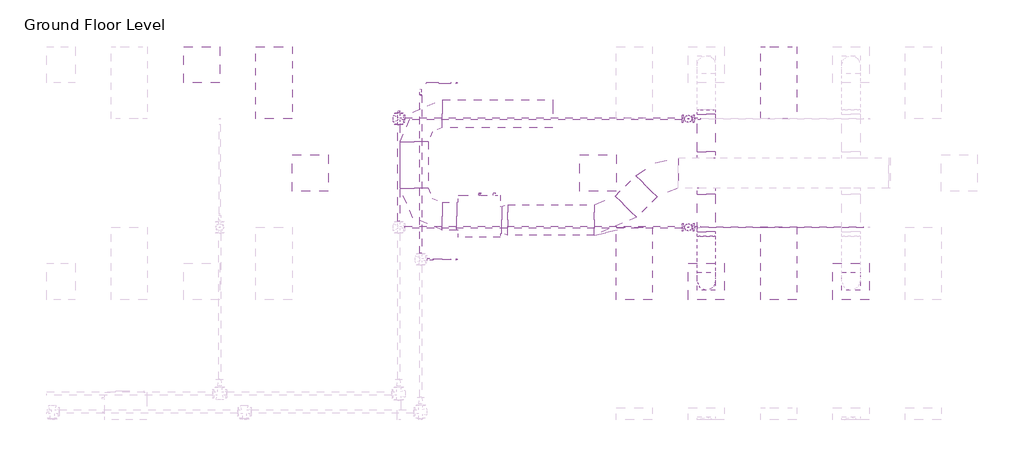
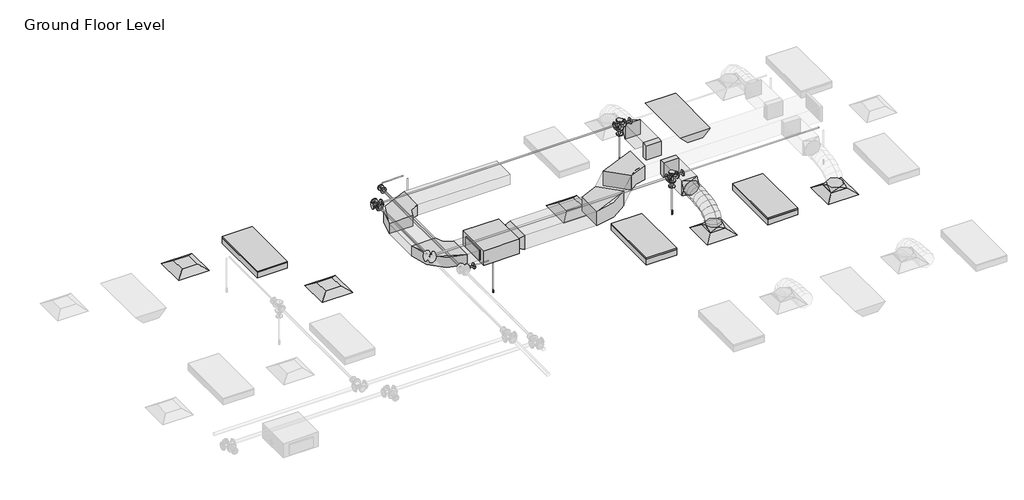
# One storey, part 64 of 66: 12 pipe segments, 11 duct fittings, 9 pipe fittings, 8 duct segments, 5 air terminals, 4 fire suppression terminals, 4 light fixtures, 1 proxy.
"""IFC4 building model written with IfcOpenShell, lengths in millimetres."""

from ifc_helpers import new_model, si_unit, point, frame, frame_2d, origin, place, context, project, spatial, polyline, circle_curve, ellipse_curve, trimmed, segment, composite_curve, outline, extrude, transform, mapped, element, save
from ifc_brep_helpers import plane_surface, cylinder_surface, advanced_brep
from components import m_return_diffuser_600_x_600_face_300_x_300_connection_ff221211, fcu_daikin_iu_bad131e0, m_rectangular_elbow_radius_1_w_54c96895, m_rectangular_elbow_radius_1_5_w_acc56c25, m_rectangular_takeoff_standard_cb0ccb98, m_rectangular_takeoff_standard_2be5eba1, m_rectangular_transition_angle_45_degree_2b595dfe, m_rectangular_to_round_transition_angle_45_degree_641efff0, m_sprinkler_dry_pendent_hosted_15_mm_dry_pendent_9bda8e11, m_sprinkler_pendent_15_mm_pendent_06fcbd8e, m_emergency_recessed_lighting_fixture_600x1200_277_5b10b25d, m_troffer_light_parabolic_rectangular1_0600x1200mm_4_lamp_86473d4a, m_reducer_flanged_cs_class_150_standard_ccf252ad, m_reducer_flanged_cs_class_150_standard_d42b2106, m_tee_round_base_flanged_cs_class_150_standard_7e5987a1

model = new_model("IFC4")

# Units and contexts
model_context = context("Model", 3, world=origin())
ifc_project = project(units=[si_unit("LENGTHUNIT", "METRE", prefix="MILLI")], contexts=[model_context])

# Site, building, storey
site = spatial("IfcSite", under=ifc_project)
building = spatial("IfcBuilding", under=site)
storey = spatial("IfcBuildingStorey", under=building, Name="Ground Floor Level", Elevation=900.0)

# Air terminals
placement = place(None, origin())
m_return_diffuser_600_x_600_face_300_x_300_connection_shape = m_return_diffuser_600_x_600_face_300_x_300_connection_ff221211(model_context)
element("IfcAirTerminal", 1, ObjectType="M_Return Diffuser : 600 x 600 Face 300 x 300 Connection", at=placement, inside=storey, context=model_context, shape_type="MappedRepresentation", body=[
    mapped(m_return_diffuser_600_x_600_face_300_x_300_connection_shape, transform((8942.7672395, 18735.2153534, 3650.0), x_axis=(1.0, 0.0, 0.0), y_axis=(0.0, 1.0, 0.0), z_axis=(0.0, 0.0, 1.0))),
])
element("IfcAirTerminal", 2, ObjectType="M_Return Diffuser : 600 x 600 Face 300 x 300 Connection", at=placement, inside=storey, context=model_context, shape_type="MappedRepresentation", body=[
    mapped(m_return_diffuser_600_x_600_face_300_x_300_connection_shape, transform((4162.7672395, 18735.2153534, 3650.0), x_axis=(1.0, 0.0, 0.0), y_axis=(0.0, 1.0, 0.0), z_axis=(0.0, 0.0, 1.0))),
])
element("IfcAirTerminal", 3, ObjectType="M_Supply Diffuser : 600 x 600 Face 300 x 300 Connection", at=placement, inside=storey, context=model_context, shape_type="MappedRepresentation", body=[
    mapped(m_return_diffuser_600_x_600_face_300_x_300_connection_shape, transform((10742.7672395, 16935.2153534, 3650.0), x_axis=(1.0, 0.0, 0.0), y_axis=(0.0, 1.0, 0.0), z_axis=(0.0, 0.0, 1.0))),
])
element("IfcAirTerminal", 4, ObjectType="M_Supply Diffuser : 600 x 600 Face 300 x 300 Connection", at=placement, inside=storey, context=model_context, shape_type="MappedRepresentation", body=[
    mapped(m_return_diffuser_600_x_600_face_300_x_300_connection_shape, transform((13142.7672395, 16935.2153534, 3650.0), x_axis=(1.0, 0.0, 0.0), y_axis=(0.0, 1.0, 0.0), z_axis=(0.0, 0.0, 1.0))),
])
element("IfcAirTerminal", 5, ObjectType="M_Supply Diffuser : 600 x 600 Face 300 x 300 Connection", at=placement, inside=storey, context=model_context, shape_type="MappedRepresentation", body=[
    mapped(m_return_diffuser_600_x_600_face_300_x_300_connection_shape, transform((2362.7672395, 20535.2153534, 3650.0), x_axis=(1.0, 0.0, 0.0), y_axis=(0.0, 1.0, 0.0), z_axis=(0.0, 0.0, 1.0))),
])

# Proxy
fcu_daikin_iu_shape = fcu_daikin_iu_bad131e0(model_context)
element("IfcBuildingElementProxy", 6, Name="FCU-DAIKIN IU : 4.5kW, 230V/50Hz/1Ph", ObjectType="FCU-DAIKIN IU : 4.5kW, 230V/50Hz/1Ph", at=placement, inside=storey, context=model_context, shape_type="MappedRepresentation", body=[
    mapped(fcu_daikin_iu_shape, transform((6968.8139492, 18019.6779527, 3934.0932729), x_axis=(0.0, 1.0, 0.0), y_axis=(-1.0, 0.0, 0.0), z_axis=(0.0, 0.0, 1.0))),
])

# Duct fittings
m_rectangular_elbow_radius_1_w_shape = m_rectangular_elbow_radius_1_w_54c96895(model_context)
element("IfcDuctFitting", 7, ObjectType="M_Rectangular Elbow - Radius : 1 W", at=placement, inside=storey, context=model_context, shape_type="MappedRepresentation", body=[
    mapped(m_rectangular_elbow_radius_1_w_shape, transform((5893.4139492, 18019.6779527, 4075.2932729), x_axis=(0.0, -1.0, 0.0), y_axis=(1.0, 0.0, 0.0), z_axis=(0.0, 0.0, 1.0))),
])
element("IfcDuctFitting", 8, ObjectType="M_Rectangular Elbow - Radius : 1 W", at=placement, inside=storey, context=model_context, shape_type="MappedRepresentation", body=[
    mapped(m_rectangular_elbow_radius_1_w_shape, transform((5893.4139492, 19719.6783949, 4075.2932729), x_axis=(-1.0, 0.0, 0.0), y_axis=(0.0, -1.0, 0.0), z_axis=(0.0, 0.0, 1.0))),
])
m_rectangular_elbow_radius_1_5_w_shape = m_rectangular_elbow_radius_1_5_w_acc56c25(model_context)
element("IfcDuctFitting", 9, ObjectType="M_Rectangular Elbow - Radius : 1.5 W", at=placement, inside=storey, context=model_context, shape_type="MappedRepresentation", body=[
    mapped(m_rectangular_elbow_radius_1_5_w_shape, transform((9187.6927358, 17956.1779527, 4100.0047224), x_axis=(0.9999999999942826, 0.0, -3.3815582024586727e-06), y_axis=(-9.063610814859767e-12, 0.9999999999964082, -2.680306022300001e-06), z_axis=(3.3815582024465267e-06, 2.6803060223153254e-06, 0.9999999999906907))),
])
element("IfcDuctFitting", 10, ObjectType="M_Rectangular Elbow - Radius : 1.5 W", at=placement, inside=storey, context=model_context, shape_type="MappedRepresentation", body=[
    mapped(m_rectangular_elbow_radius_1_5_w_shape, transform((9966.7301365, 18735.2153534, 4100.0), x_axis=(-1.0, 0.0, 0.0), y_axis=(0.0, -0.9999999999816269, 6.061864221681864e-06), z_axis=(0.0, 6.061864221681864e-06, 0.9999999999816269))),
])
m_rectangular_takeoff_standard_shape = m_rectangular_takeoff_standard_cb0ccb98(model_context)
element("IfcDuctFitting", 11, ObjectType="M_Rectangular Takeoff : Standard", at=placement, inside=storey, context=model_context, shape_type="MappedRepresentation", body=[
    mapped(m_rectangular_takeoff_standard_shape, transform((10742.7672395, 18985.2153534, 4100.0), x_axis=(0.0, 1.0, 0.0), y_axis=(1.0, 0.0, 0.0), z_axis=(0.0, 0.0, -1.0))),
])
m_rectangular_takeoff_standard_2_shape = m_rectangular_takeoff_standard_2be5eba1(model_context)
element("IfcDuctFitting", 12, ObjectType="M_Rectangular Takeoff : Standard", at=placement, inside=storey, context=model_context, shape_type="MappedRepresentation", body=[
    mapped(m_rectangular_takeoff_standard_2_shape, transform((10742.7672395, 18485.2153534, 4100.0), x_axis=(0.0, -1.0, 0.0), y_axis=(-1.0, 0.0, 0.0), z_axis=(0.0, 0.0, -1.0))),
])
m_rectangular_transition_angle_45_degree_shape = m_rectangular_transition_angle_45_degree_2b595dfe(model_context)
element("IfcDuctFitting", 13, ObjectType="M_Rectangular Transition - Angle : 45 Degree", at=placement, inside=storey, context=model_context, shape_type="MappedRepresentation", body=[
    mapped(m_rectangular_transition_angle_45_degree_shape, transform((7344.2139492, 17956.1779527, 4100.0057729), x_axis=(1.0, 0.0, 0.0), y_axis=(0.0, 1.0, 0.0), z_axis=(0.0, 0.0, 1.0))),
])
m_rectangular_to_round_transition_angle_45_degree_shape = m_rectangular_to_round_transition_angle_45_degree_641efff0(model_context)
element("IfcDuctFitting", 14, ObjectType="M_Rectangular to Round Transition - Angle : 45 Degree", at=placement, inside=storey, context=model_context, shape_type="MappedRepresentation", body=[
    mapped(m_rectangular_to_round_transition_angle_45_degree_shape, transform((10742.7672395, 16935.2153534, 3751.6), x_axis=(0.0, 0.0, 1.0), y_axis=(-1.0, 0.0, 0.0), z_axis=(0.0, -1.0, 0.0))),
])
element("IfcDuctFitting", 15, ObjectType="M_Rectangular to Round Transition - Angle : 45 Degree", at=placement, inside=storey, context=model_context, shape_type="MappedRepresentation", body=[
    mapped(m_rectangular_to_round_transition_angle_45_degree_shape, transform((10742.7672395, 17762.5512847, 4100.0), x_axis=(0.0, -1.0, 0.0), y_axis=(1.0, 0.0, 0.0), z_axis=(0.0, 0.0, 1.0))),
])
element("IfcDuctFitting", 16, ObjectType="M_Rectangular to Round Transition - Angle : 45 Degree", at=placement, inside=storey, context=model_context, shape_type="MappedRepresentation", body=[
    mapped(m_rectangular_to_round_transition_angle_45_degree_shape, transform((10742.7672395, 19707.8794221, 4100.0), x_axis=(0.0, 1.0, 0.0), y_axis=(-1.0, 0.0, 0.0), z_axis=(0.0, 0.0, 1.0))),
])
element("IfcDuctFitting", 17, ObjectType="M_Rectangular to Round Transition - Angle : 45 Degree", at=placement, inside=storey, context=model_context, shape_type="MappedRepresentation", body=[
    mapped(m_rectangular_to_round_transition_angle_45_degree_shape, transform((13142.7672395, 16935.2153534, 3751.6), x_axis=(0.0, 0.0, 1.0), y_axis=(-1.0, 0.0, 0.0), z_axis=(0.0, -1.0, 0.0))),
])

# Duct segments
element("IfcDuctSegment", 18, ObjectType="Flex - Round", at=placement, inside=storey, context=model_context, shape_type="AdvancedBrep", body=[
    advanced_brep(
    [(10892.7672395, 16935.2153534, 3826.6), (10742.7672395, 16785.2153534, 3826.6), (10592.7672395, 16935.2153534, 3826.6), (10742.7672395, 17085.2153534, 3826.6), (10892.7672395, 16935.2153534, 3857.9377114), (10742.7672395, 16785.2153534, 3883.5809337), (10592.7672395, 16935.2153534, 3857.9377114), (10742.7672395, 17085.2153534, 3832.2944892), (10892.7672395, 16952.2312859, 3906.2505728), (10742.7672395, 16818.493307, 3978.0660967), (10592.7672395, 16952.2312859, 3906.2505728), (10742.7672395, 17085.9692649, 3834.435049), (10892.7672395, 16999.4151663, 3968.7113131), (10742.7672395, 16895.209267, 4079.6206026), (10592.7672395, 16999.4151663, 3968.7113131), (10742.7672395, 17103.6210655, 3857.8020236), (10892.7672395, 17070.9711184, 4016.0700639), (10742.7672395, 17002.0370628, 4150.3237489), (10592.7672395, 17070.9711184, 4016.0700639), (10742.7672395, 17139.9051741, 3881.8163788), (10892.7672395, 17161.1032664, 4050.4146682), (10742.7672395, 17117.5425033, 4194.3367758), (10592.7672395, 17161.1032664, 4050.4146682), (10742.7672395, 17204.6640296, 3906.4925606), (10892.7672395, 17264.0157343, 4073.8329691), (10742.7672395, 17237.4548103, 4221.6234841), (10592.7672395, 17264.0157343, 4073.8329691), (10742.7672395, 17290.5766583, 3926.0424542), (10892.7672395, 17373.912646, 4088.4128097), (10742.7672395, 17358.7617437, 4237.7170733), (10592.7672395, 17373.912646, 4088.4128097), (10742.7672395, 17389.0635483, 3939.1085462), (10892.7672395, 17484.9981256, 4096.242033), (10742.7672395, 17477.4927975, 4246.085151), (10592.7672395, 17484.9981256, 4096.242033), (10742.7672395, 17492.5034538, 3946.398915), (10892.7672395, 17591.4762972, 4099.4084821), (10742.7672395, 17588.7848041, 4249.394754), (10592.7672395, 17591.4762972, 4099.4084821), (10742.7672395, 17594.1677903, 3949.4222102), (10892.7672395, 17687.5512847, 4100.0), (10742.7672395, 17688.4747925, 3950.0028429), (10592.7672395, 17687.5512847, 4100.0), (10742.7672395, 17686.6277768, 4249.9971571)],
    [
        (0, 1, circle_curve(frame((10742.7672395, 16935.2153534, 3826.6), z_axis=(0.0, 0.0, -1.0), x_axis=(1.0, 0.0, 0.0)), 150.0)),
        (1, 2, circle_curve(frame((10742.7672395, 16935.2153534, 3826.6), z_axis=(0.0, 0.0, -1.0), x_axis=(1.0, 0.0, 0.0)), 150.0)),
        (2, 3, circle_curve(frame((10742.7672395, 16935.2153534, 3826.6), z_axis=(0.0, 0.0, -1.0), x_axis=(1.0, 0.0, 0.0)), 150.0)),
        (3, 0, circle_curve(frame((10742.7672395, 16935.2153534, 3826.6), z_axis=(0.0, 0.0, -1.0), x_axis=(1.0, 0.0, 0.0)), 150.0)),
        (0, 4),
        (4, 5, ellipse_curve(frame((10742.7672395, 16935.2153534, 3857.9377114), z_axis=(0.0, -0.16851014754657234, -0.9856999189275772), x_axis=(0.0, 0.9856999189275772, -0.1685101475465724)), 152.176131, 150.0)),
        (5, 1),
        (5, 6, ellipse_curve(frame((10742.7672395, 16935.2153534, 3857.9377114), z_axis=(0.0, -0.16851014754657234, -0.9856999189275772), x_axis=(0.0, 0.9856999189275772, -0.1685101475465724)), 152.176131, 150.0)),
        (6, 2),
        (6, 7, ellipse_curve(frame((10742.7672395, 16935.2153534, 3857.9377114), z_axis=(0.0, -0.16851014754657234, -0.9856999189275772), x_axis=(0.0, 0.9856999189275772, -0.1685101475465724)), 152.176131, 150.0)),
        (7, 3),
        (7, 4, ellipse_curve(frame((10742.7672395, 16935.2153534, 3857.9377114), z_axis=(0.0, -0.16851014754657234, -0.9856999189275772), x_axis=(0.0, 0.9856999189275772, -0.1685101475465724)), 152.176131, 150.0)),
        (4, 8),
        (8, 9, ellipse_curve(frame((10742.7672395, 16952.2312859, 3906.2505728), z_axis=(0.0, -0.47309225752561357, -0.8810128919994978), x_axis=(0.0, 0.8810128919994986, -0.47309225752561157)), 151.8002519, 150.0)),
        (9, 5),
        (9, 10, ellipse_curve(frame((10742.7672395, 16952.2312859, 3906.2505728), z_axis=(0.0, -0.47309225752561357, -0.8810128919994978), x_axis=(0.0, 0.8810128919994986, -0.47309225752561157)), 151.8002519, 150.0)),
        (10, 6),
        (10, 11, ellipse_curve(frame((10742.7672395, 16952.2312859, 3906.2505728), z_axis=(0.0, -0.47309225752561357, -0.8810128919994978), x_axis=(0.0, 0.8810128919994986, -0.47309225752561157)), 151.8002519, 150.0)),
        (11, 7),
        (11, 8, ellipse_curve(frame((10742.7672395, 16952.2312859, 3906.2505728), z_axis=(0.0, -0.47309225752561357, -0.8810128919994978), x_axis=(0.0, 0.8810128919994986, -0.47309225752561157)), 151.8002519, 150.0)),
        (8, 12),
        (12, 13, ellipse_curve(frame((10742.7672395, 16999.4151663, 3968.7113131), z_axis=(0.0, -0.7287877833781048, -0.6847396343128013), x_axis=(0.0, 0.6847396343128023, -0.7287877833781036)), 152.1832446, 150.0)),
        (13, 9),
        (13, 14, ellipse_curve(frame((10742.7672395, 16999.4151663, 3968.7113131), z_axis=(0.0, -0.7287877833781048, -0.6847396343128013), x_axis=(0.0, 0.6847396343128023, -0.7287877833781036)), 152.1832446, 150.0)),
        (14, 10),
        (14, 15, ellipse_curve(frame((10742.7672395, 16999.4151663, 3968.7113131), z_axis=(0.0, -0.7287877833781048, -0.6847396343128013), x_axis=(0.0, 0.6847396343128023, -0.7287877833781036)), 152.1832446, 150.0)),
        (15, 11),
        (15, 12, ellipse_curve(frame((10742.7672395, 16999.4151663, 3968.7113131), z_axis=(0.0, -0.7287877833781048, -0.6847396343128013), x_axis=(0.0, 0.6847396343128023, -0.7287877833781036)), 152.1832446, 150.0)),
        (12, 16),
        (16, 17, ellipse_curve(frame((10742.7672395, 17070.9711184, 4016.0700639), z_axis=(0.0, -0.8895859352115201, -0.45676784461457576), x_axis=(0.0, 0.45676784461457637, -0.8895859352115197)), 150.91705, 150.0)),
        (17, 13),
        (17, 18, ellipse_curve(frame((10742.7672395, 17070.9711184, 4016.0700639), z_axis=(0.0, -0.8895859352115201, -0.45676784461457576), x_axis=(0.0, 0.45676784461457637, -0.8895859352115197)), 150.91705, 150.0)),
        (18, 14),
        (18, 19, ellipse_curve(frame((10742.7672395, 17070.9711184, 4016.0700639), z_axis=(0.0, -0.8895859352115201, -0.45676784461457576), x_axis=(0.0, 0.45676784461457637, -0.8895859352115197)), 150.91705, 150.0)),
        (19, 15),
        (19, 16, ellipse_curve(frame((10742.7672395, 17070.9711184, 4016.0700639), z_axis=(0.0, -0.8895859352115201, -0.45676784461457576), x_axis=(0.0, 0.45676784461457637, -0.8895859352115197)), 150.91705, 150.0)),
        (16, 20),
        (20, 21, ellipse_curve(frame((10742.7672395, 17161.1032664, 4050.4146682), z_axis=(0.0, -0.9571203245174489, -0.2896906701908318), x_axis=(0.0, 0.28969067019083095, -0.9571203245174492)), 150.369921, 150.0)),
        (21, 17),
        (21, 22, ellipse_curve(frame((10742.7672395, 17161.1032664, 4050.4146682), z_axis=(0.0, -0.9571203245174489, -0.2896906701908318), x_axis=(0.0, 0.28969067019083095, -0.9571203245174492)), 150.369921, 150.0)),
        (22, 18),
        (22, 23, ellipse_curve(frame((10742.7672395, 17161.1032664, 4050.4146682), z_axis=(0.0, -0.9571203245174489, -0.2896906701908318), x_axis=(0.0, 0.28969067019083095, -0.9571203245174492)), 150.369921, 150.0)),
        (23, 19),
        (23, 20, ellipse_curve(frame((10742.7672395, 17161.1032664, 4050.4146682), z_axis=(0.0, -0.9571203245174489, -0.2896906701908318), x_axis=(0.0, 0.28969067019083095, -0.9571203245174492)), 150.369921, 150.0)),
        (20, 24),
        (24, 25, ellipse_curve(frame((10742.7672395, 17264.0157343, 4073.8329691), z_axis=(0.0, -0.9842313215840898, -0.17688613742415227), x_axis=(0.0, 0.17688613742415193, -0.9842313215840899)), 150.1583131, 150.0)),
        (25, 21),
        (25, 26, ellipse_curve(frame((10742.7672395, 17264.0157343, 4073.8329691), z_axis=(0.0, -0.9842313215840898, -0.17688613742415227), x_axis=(0.0, 0.17688613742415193, -0.9842313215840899)), 150.1583131, 150.0)),
        (26, 22),
        (26, 27, ellipse_curve(frame((10742.7672395, 17264.0157343, 4073.8329691), z_axis=(0.0, -0.9842313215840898, -0.17688613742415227), x_axis=(0.0, 0.17688613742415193, -0.9842313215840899)), 150.1583131, 150.0)),
        (27, 23),
        (27, 24, ellipse_curve(frame((10742.7672395, 17264.0157343, 4073.8329691), z_axis=(0.0, -0.9842313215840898, -0.17688613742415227), x_axis=(0.0, 0.17688613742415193, -0.9842313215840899)), 150.1583131, 150.0)),
        (24, 28),
        (28, 29, ellipse_curve(frame((10742.7672395, 17373.912646, 4088.4128097), z_axis=(0.0, -0.9948906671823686, -0.1009582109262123), x_axis=(0.0, 0.10095821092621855, -0.994890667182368)), 150.0710264, 150.0)),
        (29, 25),
        (29, 30, ellipse_curve(frame((10742.7672395, 17373.912646, 4088.4128097), z_axis=(0.0, -0.9948906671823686, -0.1009582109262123), x_axis=(0.0, 0.10095821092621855, -0.994890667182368)), 150.0710264, 150.0)),
        (30, 26),
        (30, 31, ellipse_curve(frame((10742.7672395, 17373.912646, 4088.4128097), z_axis=(0.0, -0.9948906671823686, -0.1009582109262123), x_axis=(0.0, 0.10095821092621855, -0.994890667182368)), 150.0710264, 150.0)),
        (31, 27),
        (31, 28, ellipse_curve(frame((10742.7672395, 17373.912646, 4088.4128097), z_axis=(0.0, -0.9948906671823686, -0.1009582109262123), x_axis=(0.0, 0.10095821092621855, -0.994890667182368)), 150.0710264, 150.0)),
        (28, 32),
        (32, 33, ellipse_curve(frame((10742.7672395, 17484.9981256, 4096.242033), z_axis=(0.0, -0.9987479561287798, -0.05002519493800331), x_axis=(0.0, 0.05002519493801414, -0.9987479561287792)), 150.0309634, 150.0)),
        (33, 29),
        (33, 34, ellipse_curve(frame((10742.7672395, 17484.9981256, 4096.242033), z_axis=(0.0, -0.9987479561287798, -0.05002519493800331), x_axis=(0.0, 0.05002519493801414, -0.9987479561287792)), 150.0309634, 150.0)),
        (34, 30),
        (34, 35, ellipse_curve(frame((10742.7672395, 17484.9981256, 4096.242033), z_axis=(0.0, -0.9987479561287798, -0.05002519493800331), x_axis=(0.0, 0.05002519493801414, -0.9987479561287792)), 150.0309634, 150.0)),
        (35, 31),
        (35, 32, ellipse_curve(frame((10742.7672395, 17484.9981256, 4096.242033), z_axis=(0.0, -0.9987479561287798, -0.05002519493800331), x_axis=(0.0, 0.05002519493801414, -0.9987479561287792)), 150.0309634, 150.0)),
        (32, 36),
        (36, 37, ellipse_curve(frame((10742.7672395, 17591.4762972, 4099.4084821), z_axis=(0.0, -0.9998390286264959, -0.017942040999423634), x_axis=(0.0, 0.017942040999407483, -0.9998390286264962)), 150.0104193, 150.0)),
        (37, 33),
        (37, 38, ellipse_curve(frame((10742.7672395, 17591.4762972, 4099.4084821), z_axis=(0.0, -0.9998390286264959, -0.017942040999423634), x_axis=(0.0, 0.017942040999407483, -0.9998390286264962)), 150.0104193, 150.0)),
        (38, 34),
        (38, 39, ellipse_curve(frame((10742.7672395, 17591.4762972, 4099.4084821), z_axis=(0.0, -0.9998390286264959, -0.017942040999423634), x_axis=(0.0, 0.017942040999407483, -0.9998390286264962)), 150.0104193, 150.0)),
        (39, 35),
        (39, 36, ellipse_curve(frame((10742.7672395, 17591.4762972, 4099.4084821), z_axis=(0.0, -0.9998390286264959, -0.017942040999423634), x_axis=(0.0, 0.017942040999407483, -0.9998390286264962)), 150.0104193, 150.0)),
        (40, 41, circle_curve(frame((10742.7672395, 17687.5512847, 4100.0), z_axis=(0.0, 0.9999810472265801, 0.006156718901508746), x_axis=(1.0, 0.0, 0.0)), 150.0)),
        (41, 42, circle_curve(frame((10742.7672395, 17687.5512847, 4100.0), z_axis=(0.0, 0.9999810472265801, 0.006156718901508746), x_axis=(1.0, 0.0, 0.0)), 150.0)),
        (42, 43, circle_curve(frame((10742.7672395, 17687.5512847, 4100.0), z_axis=(0.0, 0.9999810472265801, 0.006156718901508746), x_axis=(1.0, 0.0, 0.0)), 150.0)),
        (43, 40, circle_curve(frame((10742.7672395, 17687.5512847, 4100.0), z_axis=(0.0, 0.9999810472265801, 0.006156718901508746), x_axis=(1.0, 0.0, 0.0)), 150.0)),
        (36, 40),
        (43, 37),
        (42, 38),
        (41, 39),
    ],
    [
        plane_surface(frame((10742.7672395, 16785.2153534, 3826.6), z_axis=(0.0, 0.0, -1.0), x_axis=(1.0, 0.0, 0.0))),
        cylinder_surface(frame((10742.7672395, 16935.2153534, 3826.6), z_axis=(0.0, 0.0, -1.0), x_axis=(1.0, 0.0, 0.0)), 150.0),
        cylinder_surface(frame((10742.7672395, 16935.2153534, 3857.9377114), z_axis=(0.0, -0.3322008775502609, -0.9432086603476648), x_axis=(1.0, 0.0, 0.0)), 150.0),
        cylinder_surface(frame((10742.7672395, 16952.2312859, 3906.2505728), z_axis=(0.0, -0.6027625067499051, -0.7979206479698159), x_axis=(1.0, 0.0, 0.0)), 150.0),
        cylinder_surface(frame((10742.7672395, 16999.4151663, 3968.7113131), z_axis=(0.0, -0.833902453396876, -0.5519118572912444), x_axis=(1.0, 0.0, 0.0)), 150.0),
        cylinder_surface(frame((10742.7672395, 17070.9711184, 4016.0700639), z_axis=(0.0, -0.9344582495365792, -0.35607271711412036), x_axis=(1.0, 0.0, 0.0)), 150.0),
        cylinder_surface(frame((10742.7672395, 17161.1032664, 4050.4146682), z_axis=(0.0, -0.9750732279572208, -0.22188330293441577), x_axis=(1.0, 0.0, 0.0)), 150.0),
        cylinder_surface(frame((10742.7672395, 17264.0157343, 4073.8329691), z_axis=(0.0, -0.9913140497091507, -0.13151598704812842), x_axis=(1.0, 0.0, 0.0)), 150.0),
        cylinder_surface(frame((10742.7672395, 17373.912646, 4088.4128097), z_axis=(0.0, -0.9975255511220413, -0.07030487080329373), x_axis=(1.0, 0.0, 0.0)), 150.0),
        cylinder_surface(frame((10742.7672395, 17484.9981256, 4096.242033), z_axis=(0.0, -0.9995581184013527, -0.02972487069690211), x_axis=(1.0, 0.0, 0.0)), 150.0),
        plane_surface(frame((10742.7672395, 17686.6277768, 4249.9971571), z_axis=(0.0, 0.9999810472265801, 0.0061567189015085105), x_axis=(1.0, 0.0, 0.0))),
        cylinder_surface(frame((10742.7672395, 17591.4762972, 4099.4084821), z_axis=(0.0, -0.9999810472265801, -0.006156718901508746), x_axis=(1.0, 0.0, 0.0)), 150.0),
    ],
    [
        (0, [[1, 2, 3, 4]]),
        (1, [[-1, 5, 6, 7]]),
        (1, [[-2, -7, 8, 9]]),
        (1, [[-3, -9, 10, 11]]),
        (1, [[-4, -11, 12, -5]]),
        (2, [[-6, 13, 14, 15]]),
        (2, [[-8, -15, 16, 17]]),
        (2, [[-10, -17, 18, 19]]),
        (2, [[-12, -19, 20, -13]]),
        (3, [[-14, 21, 22, 23]]),
        (3, [[-16, -23, 24, 25]]),
        (3, [[-18, -25, 26, 27]]),
        (3, [[-20, -27, 28, -21]]),
        (4, [[-22, 29, 30, 31]]),
        (4, [[-24, -31, 32, 33]]),
        (4, [[-26, -33, 34, 35]]),
        (4, [[-28, -35, 36, -29]]),
        (5, [[-30, 37, 38, 39]]),
        (5, [[-32, -39, 40, 41]]),
        (5, [[-34, -41, 42, 43]]),
        (5, [[-36, -43, 44, -37]]),
        (6, [[-38, 45, 46, 47]]),
        (6, [[-40, -47, 48, 49]]),
        (6, [[-42, -49, 50, 51]]),
        (6, [[-44, -51, 52, -45]]),
        (7, [[-46, 53, 54, 55]]),
        (7, [[-48, -55, 56, 57]]),
        (7, [[-50, -57, 58, 59]]),
        (7, [[-52, -59, 60, -53]]),
        (8, [[-54, 61, 62, 63]]),
        (8, [[-56, -63, 64, 65]]),
        (8, [[-58, -65, 66, 67]]),
        (8, [[-60, -67, 68, -61]]),
        (9, [[-62, 69, 70, 71]]),
        (9, [[-64, -71, 72, 73]]),
        (9, [[-66, -73, 74, 75]]),
        (9, [[-68, -75, 76, -69]]),
        (10, [[77, 78, 79, 80]]),
        (11, [[-70, 81, -80, 82]]),
        (11, [[-72, -82, -79, 83]]),
        (11, [[-74, -83, -78, 84]]),
        (11, [[-76, -84, -77, -81]]),
    ],
),
])
element("IfcDuctSegment", 19, ObjectType="Radius Elbows / Taps", at=placement, inside=storey, context=model_context, shape_type="SweptSolid", body=[
    extrude(outline(polyline([(7447.693178, 17706.1779527), (7447.693178, 18206.1779527), (8877.032564, 18206.1779527), (8877.032564, 17706.1779527), (7447.693178, 17706.1779527)])), frame((0.0, 0.0, 3950.0057729), z_axis=(0.0, 0.0, 1.0), x_axis=(1.0, 0.0, 0.0)), (0.0, 0.0, 1.0), 300.0),
])
element("IfcDuctSegment", 20, ObjectType="Radius Elbows / Taps", at=placement, inside=storey, context=model_context, shape_type="SweptSolid", body=[
    extrude(outline(polyline([(9584.1393452, 17999.0711715), (9230.5859546, 18352.6245621), (9570.2835271, 18692.3221346), (9923.8369177, 18338.768744), (9584.1393452, 17999.0711715)])), frame((0.0, 0.0, 3950.0033908), z_axis=(0.0, 0.0, 1.0), x_axis=(1.0, 0.0, 0.0)), (0.0, 0.0, 1.0), 300.0),
])
element("IfcDuctSegment", 21, ObjectType="Radius Elbows / Taps", at=placement, inside=storey, context=model_context, shape_type="SweptSolid", body=[
    extrude(outline(polyline([(6593.4139492, 18250.6154527), (6593.4139492, 17788.7404527), (6355.2889492, 17788.7404527), (6355.2889492, 18250.6154527), (6593.4139492, 18250.6154527)])), frame((0.0, 0.0, 3968.1432729), z_axis=(0.0, 0.0, 1.0), x_axis=(1.0, 0.0, 0.0)), (0.0, 0.0, 1.0), 214.3),
])
element("IfcDuctSegment", 22, ObjectType="Radius Elbows / Taps", at=placement, inside=storey, context=model_context, shape_type="SweptSolid", body=[
    extrude(outline(polyline([(6124.3514492, 18481.5529527), (5662.4764492, 18481.5529527), (5662.4764492, 19257.8033949), (6124.3514492, 19257.8033949), (6124.3514492, 18481.5529527)])), frame((0.0, 0.0, 3968.1432729), z_axis=(0.0, 0.0, 1.0), x_axis=(1.0, 0.0, 0.0)), (0.0, 0.0, 1.0), 214.3),
])
element("IfcDuctSegment", 23, ObjectType="Radius Elbows / Taps", at=placement, inside=storey, context=model_context, shape_type="SweptSolid", body=[
    extrude(outline(polyline([(6355.2889492, 19488.7408949), (6355.2889492, 19950.6158949), (8193.4139492, 19950.6158949), (8193.4139492, 19488.7408949), (6355.2889492, 19488.7408949)])), frame((0.0, 0.0, 3968.1432729), z_axis=(0.0, 0.0, 1.0), x_axis=(1.0, 0.0, 0.0)), (0.0, 0.0, 1.0), 214.3),
])
element("IfcDuctSegment", 24, ObjectType="Radius Elbows / Taps", at=placement, inside=storey, context=model_context, shape_type="SweptSolid", body=[
    extrude(outline(polyline([(10892.7672395, 19086.8153534), (10592.7672395, 19086.8153534), (10592.7672395, 19707.8794221), (10892.7672395, 19707.8794221), (10892.7672395, 19086.8153534)])), frame((0.0, 0.0, 3950.0), z_axis=(0.0, 0.0, 1.0), x_axis=(1.0, 0.0, 0.0)), (0.0, 0.0, 1.0), 300.0),
])
element("IfcDuctSegment", 25, ObjectType="Radius Elbows / Taps", at=placement, inside=storey, context=model_context, shape_type="SweptSolid", body=[
    extrude(outline(polyline([(10592.7672395, 18383.6153534), (10892.7672395, 18383.6153534), (10892.7672395, 17762.5512847), (10592.7672395, 17762.5512847), (10592.7672395, 18383.6153534)])), frame((0.0, 0.0, 3950.0), z_axis=(0.0, 0.0, 1.0), x_axis=(1.0, 0.0, 0.0)), (0.0, 0.0, 1.0), 300.0),
])

# Fire suppression terminals
m_sprinkler_dry_pendent_hosted_15_mm_dry_pendent_shape = m_sprinkler_dry_pendent_hosted_15_mm_dry_pendent_9bda8e11(model_context)
element("IfcFireSuppressionTerminal", 26, ObjectType="M_Sprinkler - Dry - Pendent - Hosted : 15 mm Dry Pendent", at=placement, inside=storey, context=model_context, shape_type="MappedRepresentation", body=[
    mapped(m_sprinkler_dry_pendent_hosted_15_mm_dry_pendent_shape, transform((10442.7672395, 19635.2153534, 3650.0), x_axis=(1.0, 0.0, 0.0), y_axis=(0.0, -1.0, 0.0), z_axis=(0.0, 0.0, -1.0))),
])
element("IfcFireSuppressionTerminal", 27, ObjectType="M_Sprinkler - Dry - Pendent - Hosted : 15 mm Dry Pendent", at=placement, inside=storey, context=model_context, shape_type="MappedRepresentation", body=[
    mapped(m_sprinkler_dry_pendent_hosted_15_mm_dry_pendent_shape, transform((10442.7672395, 17835.2153534, 3650.0), x_axis=(1.0, 0.0, 0.0), y_axis=(0.0, -1.0, 0.0), z_axis=(0.0, 0.0, -1.0))),
])
m_sprinkler_pendent_15_mm_pendent_shape = m_sprinkler_pendent_15_mm_pendent_06fcbd8e(model_context)
element("IfcFireSuppressionTerminal", 28, ObjectType="M_Sprinkler - Pendent : 15 mm Pendent", at=placement, inside=storey, context=model_context, shape_type="MappedRepresentation", body=[
    mapped(m_sprinkler_pendent_15_mm_pendent_shape, transform((6592.5481019, 17301.8585069, 3650.0), x_axis=(1.0, 0.0, 0.0), y_axis=(0.0, 1.0, 0.0), z_axis=(0.0, 0.0, 1.0))),
])
element("IfcFireSuppressionTerminal", 29, ObjectType="M_Sprinkler - Pendent : 15 mm Pendent", at=placement, inside=storey, context=model_context, shape_type="MappedRepresentation", body=[
    mapped(m_sprinkler_pendent_15_mm_pendent_shape, transform((6592.5481019, 20231.639515, 3650.0), x_axis=(1.0, 0.0, 0.0), y_axis=(0.0, 1.0, 0.0), z_axis=(0.0, 0.0, 1.0))),
])

# Light fixtures
m_emergency_recessed_lighting_fixture_600x1200_277_shape = m_emergency_recessed_lighting_fixture_600x1200_277_5b10b25d(model_context)
element("IfcLightFixture", 30, ObjectType="M_Emergency Recessed Lighting Fixture : 600x1200 - 277", at=placement, inside=storey, context=model_context, shape_type="MappedRepresentation", body=[
    mapped(m_emergency_recessed_lighting_fixture_600x1200_277_shape, transform((11642.7672395, 19635.2153534, 3650.0), x_axis=(0.0, 1.0, 0.0), y_axis=(-1.0, 0.0, 0.0), z_axis=(0.0, 0.0, 1.0))),
])
m_troffer_light_parabolic_rectangular1_0600x1200mm_4_lamp_shape = m_troffer_light_parabolic_rectangular1_0600x1200mm_4_lamp_86473d4a(model_context)
element("IfcLightFixture", 31, ObjectType="M_Troffer Light - Parabolic Rectangular1 : 0600x1200mm(4 Lamp) - 277V 2", at=placement, inside=storey, context=model_context, shape_type="MappedRepresentation", body=[
    mapped(m_troffer_light_parabolic_rectangular1_0600x1200mm_4_lamp_shape, transform((3503.3013074, 20253.918855, 3650.0), x_axis=(0.0, 1.0, 0.0), y_axis=(-1.0, 0.0, 0.0), z_axis=(0.0, 0.0, 1.0))),
])
element("IfcLightFixture", 32, ObjectType="M_Troffer Light - Parabolic Rectangular1 : 0600x1200mm(4 Lamp) - 277V 2", at=placement, inside=storey, context=model_context, shape_type="MappedRepresentation", body=[
    mapped(m_troffer_light_parabolic_rectangular1_0600x1200mm_4_lamp_shape, transform((9483.3013074, 17253.918855, 3650.0), x_axis=(0.0, 1.0, 0.0), y_axis=(-1.0, 0.0, 0.0), z_axis=(0.0, 0.0, 1.0))),
])
element("IfcLightFixture", 33, ObjectType="M_Troffer Light - Parabolic Rectangular1 : 0600x1200mm(4 Lamp) - 277V 2", at=placement, inside=storey, context=model_context, shape_type="MappedRepresentation", body=[
    mapped(m_troffer_light_parabolic_rectangular1_0600x1200mm_4_lamp_shape, transform((11883.3013074, 17253.918855, 3650.0), x_axis=(0.0, 1.0, 0.0), y_axis=(-1.0, 0.0, 0.0), z_axis=(0.0, 0.0, 1.0))),
])

# Pipe fittings
m_reducer_flanged_cs_class_150_standard_shape = m_reducer_flanged_cs_class_150_standard_ccf252ad(model_context)
element("IfcPipeFitting", 34, ObjectType="M_Reducer - Flanged - CS - Class 150 : Standard", at=placement, inside=storey, context=model_context, shape_type="MappedRepresentation", body=[
    mapped(m_reducer_flanged_cs_class_150_standard_shape, transform((5997.057812, 20024.6309212, 4291.0943441), x_axis=(0.0, 1.0, 0.0), y_axis=(-1.0, 0.0, 0.0), z_axis=(0.0, 0.0, 1.0))),
])
element("IfcPipeFitting", 35, ObjectType="M_Reducer - Flanged - CS - Class 150 : Standard", at=placement, inside=storey, context=model_context, shape_type="MappedRepresentation", body=[
    mapped(m_reducer_flanged_cs_class_150_standard_shape, transform((10543.4758332, 17835.2153534, 4360.0), x_axis=(1.0, 0.0, 0.0), y_axis=(0.0, 0.0, 1.0), z_axis=(0.0, -1.0, 0.0))),
])
element("IfcPipeFitting", 36, ObjectType="M_Reducer - Flanged - CS - Class 150 : Standard", at=placement, inside=storey, context=model_context, shape_type="MappedRepresentation", body=[
    mapped(m_reducer_flanged_cs_class_150_standard_shape, transform((10442.7672395, 17835.2153534, 4259.2914062), x_axis=(0.0, 0.0, -1.0), y_axis=(-1.0, 0.0, 0.0), z_axis=(0.0, 1.0, 0.0))),
])
element("IfcPipeFitting", 37, ObjectType="M_Reducer - Flanged - CS - Class 150 : Standard", at=placement, inside=storey, context=model_context, shape_type="MappedRepresentation", body=[
    mapped(m_reducer_flanged_cs_class_150_standard_shape, transform((10543.4758332, 19635.2153534, 4360.0), x_axis=(1.0, 0.0, 0.0), y_axis=(0.0, 0.0, 1.0), z_axis=(0.0, -1.0, 0.0))),
])
element("IfcPipeFitting", 38, ObjectType="M_Reducer - Flanged - CS - Class 150 : Standard", at=placement, inside=storey, context=model_context, shape_type="MappedRepresentation", body=[
    mapped(m_reducer_flanged_cs_class_150_standard_shape, transform((10442.7672395, 19635.2153534, 4259.2914062), x_axis=(0.0, 0.0, -1.0), y_axis=(-1.0, 0.0, 0.0), z_axis=(0.0, 1.0, 0.0))),
])
m_reducer_flanged_cs_class_150_standard_2_shape = m_reducer_flanged_cs_class_150_standard_d42b2106(model_context)
element("IfcPipeFitting", 39, ObjectType="M_Reducer - Flanged - CS - Class 150 : Standard", at=placement, inside=storey, context=model_context, shape_type="MappedRepresentation", body=[
    mapped(m_reducer_flanged_cs_class_150_standard_2_shape, transform((6097.7664057, 17301.8585069, 4291.2754753), x_axis=(1.0, 0.0, 0.0), y_axis=(0.0, 0.0, -1.0), z_axis=(0.0, 1.0, 0.0))),
])
m_tee_round_base_flanged_cs_class_150_standard_shape = m_tee_round_base_flanged_cs_class_150_standard_7e5987a1(model_context)
element("IfcPipeFitting", 40, ObjectType="M_Tee Round Base - Flanged - CS - Class 150 : Standard", at=placement, inside=storey, context=model_context, shape_type="MappedRepresentation", body=[
    mapped(m_tee_round_base_flanged_cs_class_150_standard_shape, transform((5635.869498, 19635.2153534, 4360.0), x_axis=(0.0, -1.0, 0.0), y_axis=(-1.0, 0.0, 0.0), z_axis=(0.0, 0.0, -1.0))),
])
element("IfcPipeFitting", 41, ObjectType="M_Tee Round Base - Flanged - CS - Class 150 : Standard", at=placement, inside=storey, context=model_context, shape_type="MappedRepresentation", body=[
    mapped(m_tee_round_base_flanged_cs_class_150_standard_shape, transform((10442.7672395, 17835.2153534, 4360.0), x_axis=(1.0, 0.0, 0.0), y_axis=(0.0, 0.0, 1.0), z_axis=(0.0, -1.0, 0.0))),
])
element("IfcPipeFitting", 42, ObjectType="M_Tee Round Base - Flanged - CS - Class 150 : Standard", at=placement, inside=storey, context=model_context, shape_type="MappedRepresentation", body=[
    mapped(m_tee_round_base_flanged_cs_class_150_standard_shape, transform((10442.7672395, 19635.2153534, 4360.0), x_axis=(1.0, 0.0, 0.0), y_axis=(0.0, 0.0, 1.0), z_axis=(0.0, -1.0, 0.0))),
])

# Pipe segments
element("IfcPipeSegment", 43, ObjectType="Steel flanged", at=placement, inside=storey, context=model_context, shape_type="SweptSolid", body=[
    extrude(outline(composite_curve([segment(trimmed(circle_curve(frame_2d((6592.5481019, 17301.8585069)), 10.668), [point((6581.8801019, 17301.8585069))], [point((6592.5481019, 17312.5265069))], False, "CARTESIAN"), True, "CONTINUOUS"), segment(trimmed(circle_curve(frame_2d((6592.5481019, 17301.8585069)), 10.668), [point((6592.5481019, 17312.5265069))], [point((6603.2161019, 17301.8585069))], False, "CARTESIAN"), True, "CONTINUOUS"), segment(trimmed(circle_curve(frame_2d((6592.5481019, 17301.8585069)), 10.668), [point((6603.2161019, 17301.8585069))], [point((6592.5481019, 17291.1905069))], False, "CARTESIAN"), True, "CONTINUOUS"), segment(trimmed(circle_curve(frame_2d((6592.5481019, 17301.8585069)), 10.668), [point((6592.5481019, 17291.1905069))], [point((6581.8801019, 17301.8585069))], False, "CARTESIAN"), True, "CONTINUOUS")], self_intersect=False)), frame((0.0, 0.0, 3650.0), z_axis=(0.0, 0.0, 1.0), x_axis=(1.0, 0.0, 0.0)), (0.0, 0.0, 1.0), 548.2668816),
])
element("IfcPipeSegment", 44, ObjectType="Steel flanged", at=placement, inside=storey, context=model_context, shape_type="SweptSolid", body=[
    extrude(outline(composite_curve([segment(trimmed(circle_curve(frame_2d((17301.8585069, 4291.2754753)), 10.668), [point((17312.5265069, 4291.2754753))], [point((17301.8585069, 4280.6074753))], False, "CARTESIAN"), True, "CONTINUOUS"), segment(trimmed(circle_curve(frame_2d((17301.8585069, 4291.2754753)), 10.668), [point((17301.8585069, 4280.6074753))], [point((17291.1905069, 4291.2754753))], False, "CARTESIAN"), True, "CONTINUOUS"), segment(trimmed(circle_curve(frame_2d((17301.8585069, 4291.2754753)), 10.668), [point((17291.1905069, 4291.2754753))], [point((17301.8585069, 4301.9434753))], False, "CARTESIAN"), True, "CONTINUOUS"), segment(trimmed(circle_curve(frame_2d((17301.8585069, 4291.2754753)), 10.668), [point((17301.8585069, 4301.9434753))], [point((17312.5265069, 4291.2754753))], False, "CARTESIAN"), True, "CONTINUOUS")], self_intersect=False)), frame((6211.7664057, 0.0, 0.0), z_axis=(1.0, 0.0, 0.0), x_axis=(0.0, 1.0, 0.0)), (0.0, 0.0, 1.0), 287.7731025),
])
element("IfcPipeSegment", 45, ObjectType="Steel flanged", at=placement, inside=storey, context=model_context, shape_type="SweptSolid", body=[
    extrude(outline(composite_curve([segment(trimmed(circle_curve(frame_2d((4291.0943441, 5997.057812)), 16.7005), [point((4291.0943441, 6013.758312))], [point((4307.7948441, 5997.057812))], False, "CARTESIAN"), True, "CONTINUOUS"), segment(trimmed(circle_curve(frame_2d((4291.0943441, 5997.057812)), 16.7005), [point((4307.7948441, 5997.057812))], [point((4291.0943441, 5980.357312))], False, "CARTESIAN"), True, "CONTINUOUS"), segment(trimmed(circle_curve(frame_2d((4291.0943441, 5997.057812)), 16.7005), [point((4291.0943441, 5980.357312))], [point((4274.3938441, 5997.057812))], False, "CARTESIAN"), True, "CONTINUOUS"), segment(trimmed(circle_curve(frame_2d((4291.0943441, 5997.057812)), 16.7005), [point((4274.3938441, 5997.057812))], [point((4291.0943441, 6013.758312))], False, "CARTESIAN"), True, "CONTINUOUS")], self_intersect=False)), frame((0.0, 17402.5671007, 0.0), z_axis=(0.0, 1.0, 0.0), x_axis=(0.0, 0.0, 1.0)), (0.0, 0.0, 1.0), 2622.0638206),
])
element("IfcPipeSegment", 46, ObjectType="Steel flanged", at=placement, inside=storey, context=model_context, shape_type="SweptSolid", body=[
    extrude(outline(composite_curve([segment(trimmed(circle_curve(frame_2d((6592.5481019, 20231.639515)), 10.668), [point((6581.8801019, 20231.639515))], [point((6592.5481019, 20242.307515))], False, "CARTESIAN"), True, "CONTINUOUS"), segment(trimmed(circle_curve(frame_2d((6592.5481019, 20231.639515)), 10.668), [point((6592.5481019, 20242.307515))], [point((6603.2161019, 20231.639515))], False, "CARTESIAN"), True, "CONTINUOUS"), segment(trimmed(circle_curve(frame_2d((6592.5481019, 20231.639515)), 10.668), [point((6603.2161019, 20231.639515))], [point((6592.5481019, 20220.971515))], False, "CARTESIAN"), True, "CONTINUOUS"), segment(trimmed(circle_curve(frame_2d((6592.5481019, 20231.639515)), 10.668), [point((6592.5481019, 20220.971515))], [point((6581.8801019, 20231.639515))], False, "CARTESIAN"), True, "CONTINUOUS")], self_intersect=False)), frame((0.0, 0.0, 3650.0), z_axis=(0.0, 0.0, 1.0), x_axis=(1.0, 0.0, 0.0)), (0.0, 0.0, 1.0), 548.2668816),
])
element("IfcPipeSegment", 47, ObjectType="Steel flanged", at=placement, inside=storey, context=model_context, shape_type="SweptSolid", body=[
    extrude(outline(composite_curve([segment(trimmed(circle_curve(frame_2d((20231.639515, 4291.2754753)), 10.668), [point((20242.307515, 4291.2754753))], [point((20231.639515, 4280.6074753))], False, "CARTESIAN"), True, "CONTINUOUS"), segment(trimmed(circle_curve(frame_2d((20231.639515, 4291.2754753)), 10.668), [point((20231.639515, 4280.6074753))], [point((20220.971515, 4291.2754753))], False, "CARTESIAN"), True, "CONTINUOUS"), segment(trimmed(circle_curve(frame_2d((20231.639515, 4291.2754753)), 10.668), [point((20220.971515, 4291.2754753))], [point((20231.639515, 4301.9434753))], False, "CARTESIAN"), True, "CONTINUOUS"), segment(trimmed(circle_curve(frame_2d((20231.639515, 4291.2754753)), 10.668), [point((20231.639515, 4301.9434753))], [point((20242.307515, 4291.2754753))], False, "CARTESIAN"), True, "CONTINUOUS")], self_intersect=False)), frame((6090.0664057, 0.0, 0.0), z_axis=(1.0, 0.0, 0.0), x_axis=(0.0, 1.0, 0.0)), (0.0, 0.0, 1.0), 409.4731025),
])
element("IfcPipeSegment", 48, ObjectType="Steel flanged", at=placement, inside=storey, context=model_context, shape_type="SweptSolid", body=[
    extrude(outline(composite_curve([segment(trimmed(circle_curve(frame_2d((4360.0, 5635.869498)), 16.7005), [point((4360.0, 5652.569998))], [point((4376.7005, 5635.869498))], False, "CARTESIAN"), True, "CONTINUOUS"), segment(trimmed(circle_curve(frame_2d((4360.0, 5635.869498)), 16.7005), [point((4376.7005, 5635.869498))], [point((4360.0, 5619.168998))], False, "CARTESIAN"), True, "CONTINUOUS"), segment(trimmed(circle_curve(frame_2d((4360.0, 5635.869498)), 16.7005), [point((4360.0, 5619.168998))], [point((4343.2995, 5635.869498))], False, "CARTESIAN"), True, "CONTINUOUS"), segment(trimmed(circle_curve(frame_2d((4360.0, 5635.869498)), 16.7005), [point((4343.2995, 5635.869498))], [point((4360.0, 5652.569998))], False, "CARTESIAN"), True, "CONTINUOUS")], self_intersect=False)), frame((0.0, 19735.9239471, 0.0), z_axis=(0.0, 1.0, 0.0), x_axis=(0.0, 0.0, 1.0)), (0.0, 0.0, 1.0), 37.2770357),
])
element("IfcPipeSegment", 49, ObjectType="Steel flanged", at=placement, inside=storey, context=model_context, shape_type="SweptSolid", body=[
    extrude(outline(composite_curve([segment(trimmed(circle_curve(frame_2d((4360.0, 5635.869498)), 16.7005), [point((4360.0, 5652.569998))], [point((4376.7005, 5635.869498))], False, "CARTESIAN"), True, "CONTINUOUS"), segment(trimmed(circle_curve(frame_2d((4360.0, 5635.869498)), 16.7005), [point((4376.7005, 5635.869498))], [point((4360.0, 5619.168998))], False, "CARTESIAN"), True, "CONTINUOUS"), segment(trimmed(circle_curve(frame_2d((4360.0, 5635.869498)), 16.7005), [point((4360.0, 5619.168998))], [point((4343.2995, 5635.869498))], False, "CARTESIAN"), True, "CONTINUOUS"), segment(trimmed(circle_curve(frame_2d((4360.0, 5635.869498)), 16.7005), [point((4343.2995, 5635.869498))], [point((4360.0, 5652.569998))], False, "CARTESIAN"), True, "CONTINUOUS")], self_intersect=False)), frame((0.0, 17935.9239471, 0.0), z_axis=(0.0, 1.0, 0.0), x_axis=(0.0, 0.0, 1.0)), (0.0, 0.0, 1.0), 1598.5828125),
])
element("IfcPipeSegment", 50, ObjectType="Steel flanged", at=placement, inside=storey, context=model_context, shape_type="SweptSolid", body=[
    extrude(outline(composite_curve([segment(trimmed(circle_curve(frame_2d((10442.7672395, 17835.2153534)), 10.668), [point((10432.0992395, 17835.2153534))], [point((10442.7672395, 17845.8833534))], False, "CARTESIAN"), True, "CONTINUOUS"), segment(trimmed(circle_curve(frame_2d((10442.7672395, 17835.2153534)), 10.668), [point((10442.7672395, 17845.8833534))], [point((10453.4352395, 17835.2153534))], False, "CARTESIAN"), True, "CONTINUOUS"), segment(trimmed(circle_curve(frame_2d((10442.7672395, 17835.2153534)), 10.668), [point((10453.4352395, 17835.2153534))], [point((10442.7672395, 17824.5473534))], False, "CARTESIAN"), True, "CONTINUOUS"), segment(trimmed(circle_curve(frame_2d((10442.7672395, 17835.2153534)), 10.668), [point((10442.7672395, 17824.5473534))], [point((10432.0992395, 17835.2153534))], False, "CARTESIAN"), True, "CONTINUOUS")], self_intersect=False)), frame((0.0, 0.0, 3650.0), z_axis=(0.0, 0.0, 1.0), x_axis=(1.0, 0.0, 0.0)), (0.0, 0.0, 1.0), 495.2914062),
])
element("IfcPipeSegment", 51, ObjectType="Steel flanged", at=placement, inside=storey, context=model_context, shape_type="SweptSolid", body=[
    extrude(outline(composite_curve([segment(trimmed(circle_curve(frame_2d((17835.2153534, 4360.0)), 16.7005), [point((17851.9158534, 4360.0))], [point((17835.2153534, 4343.2995))], False, "CARTESIAN"), True, "CONTINUOUS"), segment(trimmed(circle_curve(frame_2d((17835.2153534, 4360.0)), 16.7005), [point((17835.2153534, 4343.2995))], [point((17818.5148534, 4360.0))], False, "CARTESIAN"), True, "CONTINUOUS"), segment(trimmed(circle_curve(frame_2d((17835.2153534, 4360.0)), 16.7005), [point((17818.5148534, 4360.0))], [point((17835.2153534, 4376.7005))], False, "CARTESIAN"), True, "CONTINUOUS"), segment(trimmed(circle_curve(frame_2d((17835.2153534, 4360.0)), 16.7005), [point((17835.2153534, 4376.7005))], [point((17851.9158534, 4360.0))], False, "CARTESIAN"), True, "CONTINUOUS")], self_intersect=False)), frame((5736.5780918, 0.0, 0.0), z_axis=(1.0, 0.0, 0.0), x_axis=(0.0, 1.0, 0.0)), (0.0, 0.0, 1.0), 4605.480554),
])
element("IfcPipeSegment", 52, ObjectType="Steel flanged", at=placement, inside=storey, context=model_context, shape_type="SweptSolid", body=[
    extrude(outline(composite_curve([segment(trimmed(circle_curve(frame_2d((17835.2153534, 4360.0)), 10.668), [point((17845.8833534, 4360.0))], [point((17835.2153534, 4349.332))], False, "CARTESIAN"), True, "CONTINUOUS"), segment(trimmed(circle_curve(frame_2d((17835.2153534, 4360.0)), 10.668), [point((17835.2153534, 4349.332))], [point((17824.5473534, 4360.0))], False, "CARTESIAN"), True, "CONTINUOUS"), segment(trimmed(circle_curve(frame_2d((17835.2153534, 4360.0)), 10.668), [point((17824.5473534, 4360.0))], [point((17835.2153534, 4370.668))], False, "CARTESIAN"), True, "CONTINUOUS"), segment(trimmed(circle_curve(frame_2d((17835.2153534, 4360.0)), 10.668), [point((17835.2153534, 4370.668))], [point((17845.8833534, 4360.0))], False, "CARTESIAN"), True, "CONTINUOUS")], self_intersect=False)), frame((10657.4758332, 0.0, 0.0), z_axis=(1.0, 0.0, 0.0), x_axis=(0.0, 1.0, 0.0)), (0.0, 0.0, 1.0), 2692.2828125),
])
element("IfcPipeSegment", 53, ObjectType="Steel flanged", at=placement, inside=storey, context=model_context, shape_type="SweptSolid", body=[
    extrude(outline(composite_curve([segment(trimmed(circle_curve(frame_2d((10442.7672395, 19635.2153534)), 10.668), [point((10432.0992395, 19635.2153534))], [point((10442.7672395, 19645.8833534))], False, "CARTESIAN"), True, "CONTINUOUS"), segment(trimmed(circle_curve(frame_2d((10442.7672395, 19635.2153534)), 10.668), [point((10442.7672395, 19645.8833534))], [point((10453.4352395, 19635.2153534))], False, "CARTESIAN"), True, "CONTINUOUS"), segment(trimmed(circle_curve(frame_2d((10442.7672395, 19635.2153534)), 10.668), [point((10453.4352395, 19635.2153534))], [point((10442.7672395, 19624.5473534))], False, "CARTESIAN"), True, "CONTINUOUS"), segment(trimmed(circle_curve(frame_2d((10442.7672395, 19635.2153534)), 10.668), [point((10442.7672395, 19624.5473534))], [point((10432.0992395, 19635.2153534))], False, "CARTESIAN"), True, "CONTINUOUS")], self_intersect=False)), frame((0.0, 0.0, 3650.0), z_axis=(0.0, 0.0, 1.0), x_axis=(1.0, 0.0, 0.0)), (0.0, 0.0, 1.0), 495.2914062),
])
element("IfcPipeSegment", 54, ObjectType="Steel flanged", at=placement, inside=storey, context=model_context, shape_type="SweptSolid", body=[
    extrude(outline(composite_curve([segment(trimmed(circle_curve(frame_2d((19635.2153534, 4360.0)), 16.7005), [point((19651.9158534, 4360.0))], [point((19635.2153534, 4343.2995))], False, "CARTESIAN"), True, "CONTINUOUS"), segment(trimmed(circle_curve(frame_2d((19635.2153534, 4360.0)), 16.7005), [point((19635.2153534, 4343.2995))], [point((19618.5148534, 4360.0))], False, "CARTESIAN"), True, "CONTINUOUS"), segment(trimmed(circle_curve(frame_2d((19635.2153534, 4360.0)), 16.7005), [point((19618.5148534, 4360.0))], [point((19635.2153534, 4376.7005))], False, "CARTESIAN"), True, "CONTINUOUS"), segment(trimmed(circle_curve(frame_2d((19635.2153534, 4360.0)), 16.7005), [point((19635.2153534, 4376.7005))], [point((19651.9158534, 4360.0))], False, "CARTESIAN"), True, "CONTINUOUS")], self_intersect=False)), frame((5736.5780918, 0.0, 0.0), z_axis=(1.0, 0.0, 0.0), x_axis=(0.0, 1.0, 0.0)), (0.0, 0.0, 1.0), 4605.480554),
])

save(model, "model.ifc")
